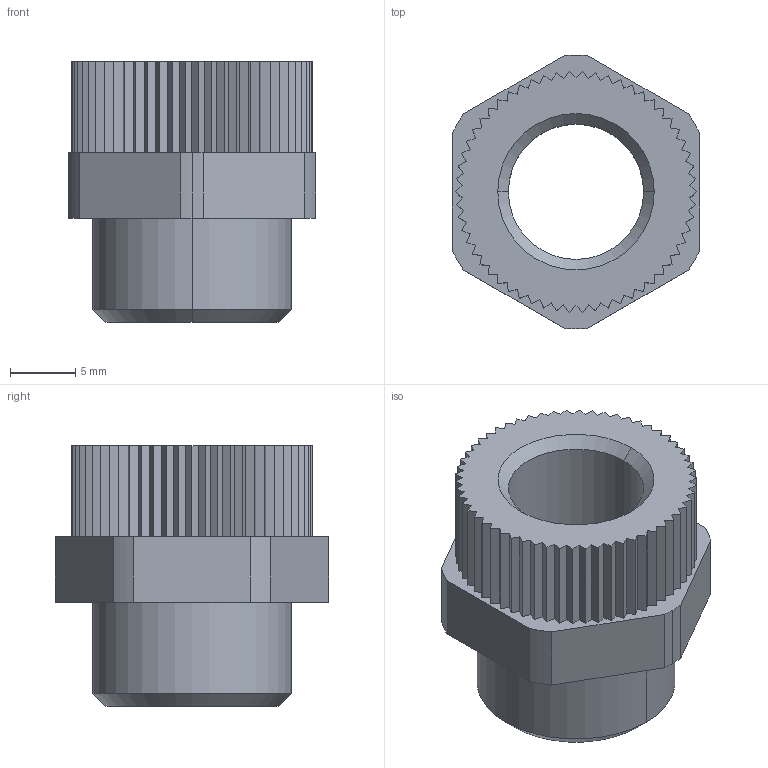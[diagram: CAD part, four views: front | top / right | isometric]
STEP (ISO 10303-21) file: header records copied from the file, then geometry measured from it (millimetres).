
FILE_DESCRIPTION (( 'STEP AP203' ), '1' );
FILE_NAME ('PG9M12PA.STEP', '2006-04-06T12:36:04', ( ' ' ), ( '' ), 'SwSTEP 2.0', 'SolidWorks 2005278', '' );
FILE_SCHEMA (( 'CONFIG_CONTROL_DESIGN' ));
Length unit declared in the file: millimetre
Products named in the file (1): PG9M12PA
Bounding box: 19 x 21 x 20 mm (x, y, z)
Volume: 3024.7 mm3; surface area: 2331.1 mm2
Topology: 1 solids, 1 shells, 241 faces, 695 edges, 462 vertices
Faces by surface type: plane 164, cylinder 71, cone 4, torus 2
Entity records: 7970 total; most frequent: CARTESIAN_POINT 1399, ORIENTED_EDGE 1390, DIRECTION 1331, EDGE_CURVE 695, VECTOR 543, LINE 543, VERTEX_POINT 462, AXIS2_PLACEMENT_3D 394
